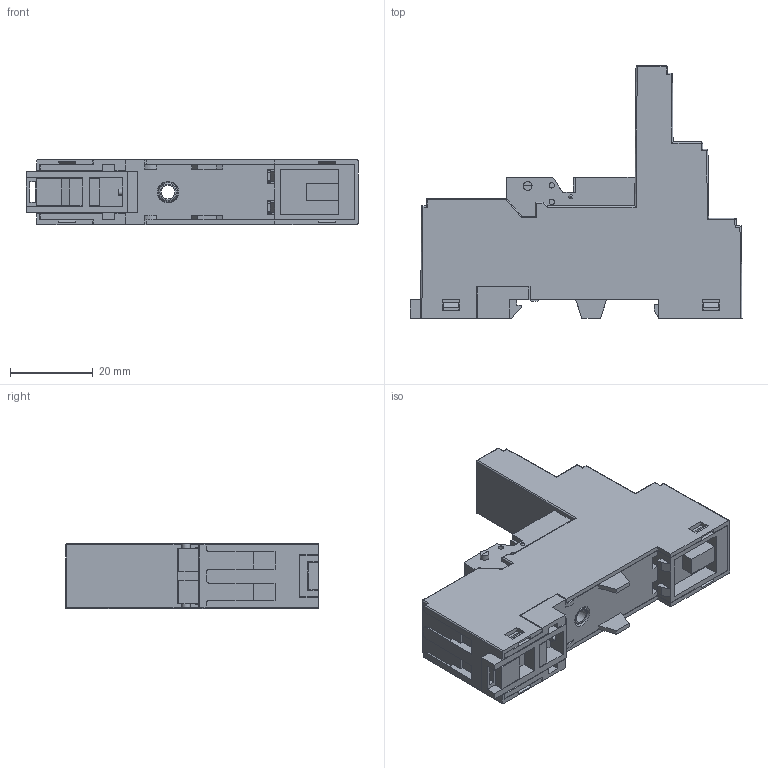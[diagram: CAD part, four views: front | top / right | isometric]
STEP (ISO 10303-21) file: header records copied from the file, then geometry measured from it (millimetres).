
FILE_DESCRIPTION(/* description */ (''),/* implementation_level */ '2;1');
FILE_NAME(/* name */ '157f-2z-c3.stp',/* time_stamp */ '2020-11-09T13:07:25+08:00',/* author */ (''),/* organization */ (''),/* preprocessor_version */ 'ST-DEVELOPER v11',/* originating_system */ 'SIEMENS UGS NX 6.0',/* authorisation */ '');
FILE_SCHEMA (('AP203_CONFIGURATION_CONTROLLED_3D_DESIGN_OF_MECHANICAL_PARTS_AND_ASSEMBLIES_MIM_LF'));
Products named in the file (1): 157f-2z-c3
Bounding box: 80.4 x 61.2 x 15.75 mm (x, y, z)
Volume: 28521.4 mm3; surface area: 27403.2 mm2
Topology: 19 solids, 19 shells, 884 faces, 2395 edges, 1558 vertices
Faces by surface type: plane 691, cylinder 144, bspline 26, torus 12, sphere 10, cone 1
Full cylindrical faces by diameter (mm): 1.3 x4, 1.5 x1, 2 x8, 2.1 x2, 2.5 x8, 3 x8, 3.3 x1, 3.7 x1, 5.2 x1, 5.5 x8, 6.1 x1
Entity records: 48424 total; most frequent: CARTESIAN_POINT 26124, ORIENTED_EDGE 4624, DIRECTION 4247, EDGE_CURVE 2312, LINE 1875, VECTOR 1875, VERTEX_POINT 1563, AXIS2_PLACEMENT_3D 1186
